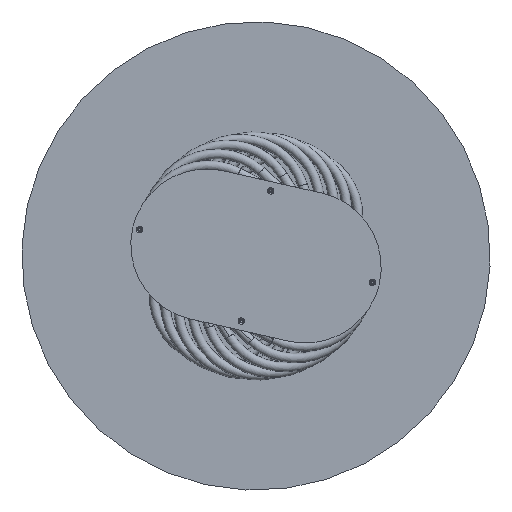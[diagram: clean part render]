
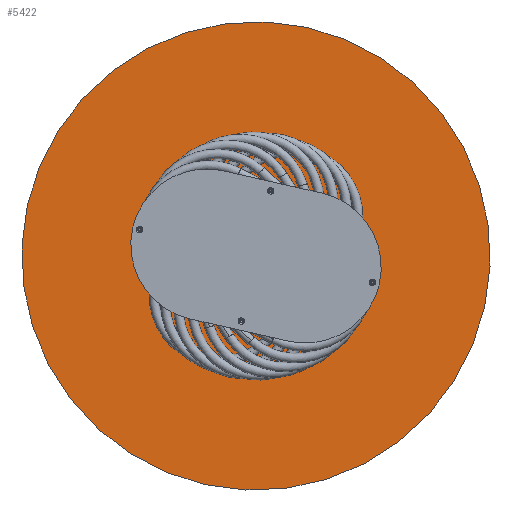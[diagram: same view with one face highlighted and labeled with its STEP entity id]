
A CAD part, front view. The second image highlights one B-rep face of the part: STEP entity #5422.
In plain terms, the highlighted planar face has unit normal (0, -1, 0).
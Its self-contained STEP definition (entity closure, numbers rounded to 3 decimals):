
#296 = ORIENTED_EDGE ( 'NONE', *, *, #5766, .T. ) ;
#1551 = ORIENTED_EDGE ( 'NONE', *, *, #5013, .T. ) ;
#2192 = DIRECTION ( 'NONE',  ( 0., 0., -1. ) ) ;
#2453 = CARTESIAN_POINT ( 'NONE',  ( 0., 0., 500. ) ) ;
#2498 = VERTEX_POINT ( 'NONE', #2453 ) ;
#2773 = CARTESIAN_POINT ( 'NONE',  ( 0., 0., 0. ) ) ;
#3663 = VERTEX_POINT ( 'NONE', #4347 ) ;
#3845 = EDGE_LOOP ( 'NONE', ( #1551, #296 ) ) ;
#3981 = AXIS2_PLACEMENT_3D ( 'NONE', #2773, #5272, #7742 ) ;
#4022 = DIRECTION ( 'NONE',  ( 0., 0., -1. ) ) ;
#4112 = CIRCLE ( 'NONE', #5914, 500. ) ;
#4208 = PLANE ( 'NONE',  #3981 ) ;
#4347 = CARTESIAN_POINT ( 'NONE',  ( 0., 0., -500. ) ) ;
#5013 = EDGE_CURVE ( 'NONE', #3663, #2498, #7480, .T. ) ;
#5238 = DIRECTION ( 'NONE',  ( 0., -1., 0. ) ) ;
#5272 = DIRECTION ( 'NONE',  ( 0., -1., 0. ) ) ;
#5422 = ADVANCED_FACE ( 'NONE', ( #7294 ), #4208, .T. ) ;
#5766 = EDGE_CURVE ( 'NONE', #2498, #3663, #4112, .T. ) ;
#5914 = AXIS2_PLACEMENT_3D ( 'NONE', #6023, #7129, #2192 ) ;
#6023 = CARTESIAN_POINT ( 'NONE',  ( 0., 0., 0. ) ) ;
#6377 = CARTESIAN_POINT ( 'NONE',  ( 0., 0., 0. ) ) ;
#7129 = DIRECTION ( 'NONE',  ( 0., -1., 0. ) ) ;
#7294 = FACE_OUTER_BOUND ( 'NONE', #3845, .T. ) ;
#7480 = CIRCLE ( 'NONE', #7601, 500. ) ;
#7601 = AXIS2_PLACEMENT_3D ( 'NONE', #6377, #5238, #4022 ) ;
#7742 = DIRECTION ( 'NONE',  ( 0., 0., -1. ) ) ;
